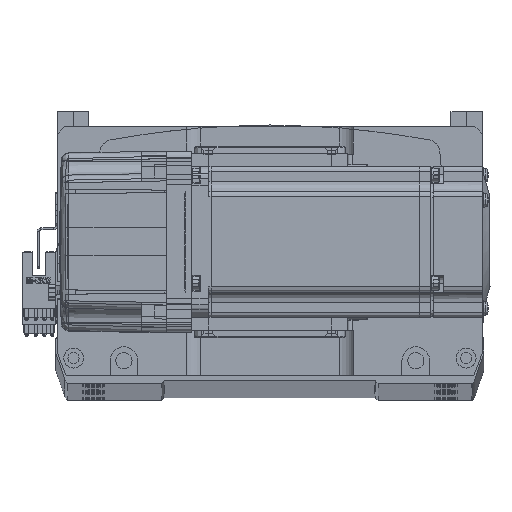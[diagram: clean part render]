
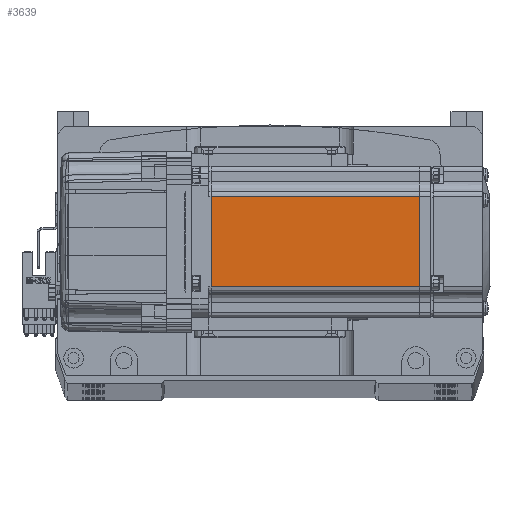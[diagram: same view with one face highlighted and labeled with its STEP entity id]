
A CAD part, top view. The second image highlights one B-rep face of the part: STEP entity #3639.
In plain terms, the highlighted planar face has unit normal (0, 0, 1) as drawn and (0, -1, 0) by its records, which use the part's own axes.
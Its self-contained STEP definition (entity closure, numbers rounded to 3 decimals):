
#160 = CARTESIAN_POINT ( 'NONE',  ( -6.5, -30., 18. ) ) ;
#1005 = ORIENTED_EDGE ( 'NONE', *, *, #38651, .T. ) ;
#1526 = EDGE_CURVE ( 'NONE', #60383, #41287, #3169, .T. ) ;
#3169 = LINE ( 'NONE', #55039, #28189 ) ;
#3639 = ADVANCED_FACE ( 'NONE', ( #4738 ), #38787, .T. ) ;
#4340 = CARTESIAN_POINT ( 'NONE',  ( -6.5, -30., -25. ) ) ;
#4738 = FACE_OUTER_BOUND ( 'NONE', #25498, .T. ) ;
#7198 = VECTOR ( 'NONE', #62645, 1000. ) ;
#11625 = CARTESIAN_POINT ( 'NONE',  ( -90.45, -30., 18. ) ) ;
#15331 = DIRECTION ( 'NONE',  ( 0., -1., 0. ) ) ;
#15742 = CARTESIAN_POINT ( 'NONE',  ( -7.75, -30., 18. ) ) ;
#16167 = VERTEX_POINT ( 'NONE', #50144 ) ;
#16976 = CARTESIAN_POINT ( 'NONE',  ( -7.75, -30., -25. ) ) ;
#17099 = LINE ( 'NONE', #160, #70649 ) ;
#23521 = ORIENTED_EDGE ( 'NONE', *, *, #44500, .T. ) ;
#23994 = EDGE_CURVE ( 'NONE', #41287, #16167, #40399, .T. ) ;
#25498 = EDGE_LOOP ( 'NONE', ( #1005, #23521, #56514, #69159 ) ) ;
#28189 = VECTOR ( 'NONE', #43782, 1000. ) ;
#33930 = VERTEX_POINT ( 'NONE', #15742 ) ;
#38651 = EDGE_CURVE ( 'NONE', #16167, #33930, #54515, .T. ) ;
#38787 = PLANE ( 'NONE',  #61695 ) ;
#40399 = LINE ( 'NONE', #66298, #72576 ) ;
#41287 = VERTEX_POINT ( 'NONE', #49040 ) ;
#43782 = DIRECTION ( 'NONE',  ( 0., 0., -1. ) ) ;
#44500 = EDGE_CURVE ( 'NONE', #33930, #60383, #17099, .T. ) ;
#49040 = CARTESIAN_POINT ( 'NONE',  ( -90.45, -30., -18. ) ) ;
#50144 = CARTESIAN_POINT ( 'NONE',  ( -7.75, -30., -18. ) ) ;
#54287 = DIRECTION ( 'NONE',  ( 1., 0., 0. ) ) ;
#54515 = LINE ( 'NONE', #16976, #7198 ) ;
#55039 = CARTESIAN_POINT ( 'NONE',  ( -90.45, -30., -25. ) ) ;
#56514 = ORIENTED_EDGE ( 'NONE', *, *, #1526, .T. ) ;
#60383 = VERTEX_POINT ( 'NONE', #11625 ) ;
#61695 = AXIS2_PLACEMENT_3D ( 'NONE', #4340, #15331, #72235 ) ;
#62384 = DIRECTION ( 'NONE',  ( -1., 0., 0. ) ) ;
#62645 = DIRECTION ( 'NONE',  ( 0., 0., 1. ) ) ;
#66298 = CARTESIAN_POINT ( 'NONE',  ( -6.5, -30., -18. ) ) ;
#69159 = ORIENTED_EDGE ( 'NONE', *, *, #23994, .T. ) ;
#70649 = VECTOR ( 'NONE', #62384, 1000. ) ;
#72235 = DIRECTION ( 'NONE',  ( 0., 0., -1. ) ) ;
#72576 = VECTOR ( 'NONE', #54287, 1000. ) ;
